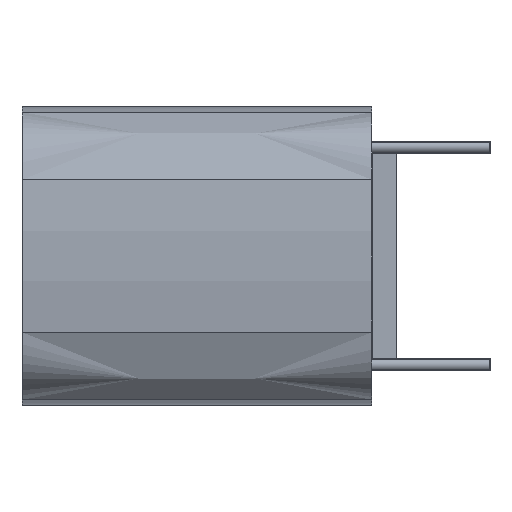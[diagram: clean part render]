
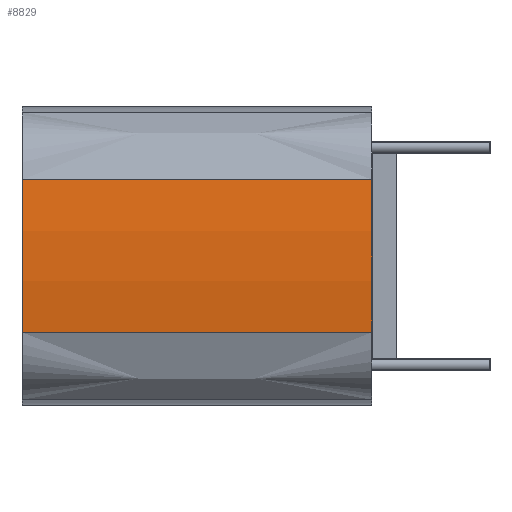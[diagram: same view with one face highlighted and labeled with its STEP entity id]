
A CAD part, left-side view. The second image highlights one B-rep face of the part: STEP entity #8829.
In plain terms, the highlighted cylindrical face has radius 853 mm (diameter 1706 mm), a partial arc.
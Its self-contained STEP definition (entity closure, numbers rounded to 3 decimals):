
#179 = ORIENTED_EDGE ( 'NONE', *, *, #9617, .T. ) ;
#800 = VERTEX_POINT ( 'NONE', #5337 ) ;
#1334 = CARTESIAN_POINT ( 'NONE',  ( -941.14, 0., 122.624 ) ) ;
#1947 = CARTESIAN_POINT ( 'NONE',  ( -941.14, 0., -122.624 ) ) ;
#2162 = B_SPLINE_CURVE_WITH_KNOTS ( 'NONE', 3,
 ( #1334, #5320, #5387, #2385 ),
 .UNSPECIFIED., .F., .F.,
 ( 4, 4 ),
 ( 0., 1. ),
 .UNSPECIFIED. ) ;
#2385 = CARTESIAN_POINT ( 'NONE',  ( -941.14, 563.5, 122.624 ) ) ;
#2894 = VERTEX_POINT ( 'NONE', #8298 ) ;
#3207 = CARTESIAN_POINT ( 'NONE',  ( -941.14, 563.5, -122.624 ) ) ;
#3660 = VERTEX_POINT ( 'NONE', #7500 ) ;
#4008 = CARTESIAN_POINT ( 'NONE',  ( -941.14, 187.833, -122.624 ) ) ;
#4671 = DIRECTION ( 'NONE',  ( 0., 0., -1. ) ) ;
#4755 = AXIS2_PLACEMENT_3D ( 'NONE', #10699, #7521, #5593 ) ;
#4859 = CYLINDRICAL_SURFACE ( 'NONE', #13129, 853. ) ;
#5320 = CARTESIAN_POINT ( 'NONE',  ( -941.14, 187.833, 122.624 ) ) ;
#5337 = CARTESIAN_POINT ( 'NONE',  ( -941.14, 563.5, -122.624 ) ) ;
#5387 = CARTESIAN_POINT ( 'NONE',  ( -941.14, 375.667, 122.624 ) ) ;
#5505 = AXIS2_PLACEMENT_3D ( 'NONE', #6210, #7278, #10065 ) ;
#5593 = DIRECTION ( 'NONE',  ( 0., 0., -1. ) ) ;
#5607 = FACE_OUTER_BOUND ( 'NONE', #8724, .T. ) ;
#5668 = CARTESIAN_POINT ( 'NONE',  ( -97., 563.5, 0. ) ) ;
#6210 = CARTESIAN_POINT ( 'NONE',  ( -97., 563.5, 0. ) ) ;
#6759 = B_SPLINE_CURVE_WITH_KNOTS ( 'NONE', 3,
 ( #3207, #12313, #4008, #1947 ),
 .UNSPECIFIED., .F., .F.,
 ( 4, 4 ),
 ( 0., 1. ),
 .UNSPECIFIED. ) ;
#6788 = EDGE_CURVE ( 'NONE', #3660, #2894, #11741, .T. ) ;
#6881 = CARTESIAN_POINT ( 'NONE',  ( -941.14, 563.5, 122.624 ) ) ;
#6889 = ORIENTED_EDGE ( 'NONE', *, *, #6788, .F. ) ;
#7278 = DIRECTION ( 'NONE',  ( 0., -1., 0. ) ) ;
#7500 = CARTESIAN_POINT ( 'NONE',  ( -941.14, 0., 122.624 ) ) ;
#7521 = DIRECTION ( 'NONE',  ( 0., -1., 0. ) ) ;
#8298 = CARTESIAN_POINT ( 'NONE',  ( -941.14, 0., -122.624 ) ) ;
#8724 = EDGE_LOOP ( 'NONE', ( #6889, #11425, #11218, #179 ) ) ;
#8829 = ADVANCED_FACE ( 'NONE', ( #5607 ), #4859, .T. ) ;
#9006 = EDGE_CURVE ( 'NONE', #3660, #9402, #2162, .T. ) ;
#9402 = VERTEX_POINT ( 'NONE', #6881 ) ;
#9617 = EDGE_CURVE ( 'NONE', #800, #2894, #6759, .T. ) ;
#9644 = EDGE_CURVE ( 'NONE', #9402, #800, #9761, .T. ) ;
#9656 = DIRECTION ( 'NONE',  ( 0., -1., 0. ) ) ;
#9761 = CIRCLE ( 'NONE', #5505, 853. ) ;
#10065 = DIRECTION ( 'NONE',  ( 0., 0., -1. ) ) ;
#10699 = CARTESIAN_POINT ( 'NONE',  ( -97., 0., 0. ) ) ;
#11218 = ORIENTED_EDGE ( 'NONE', *, *, #9644, .T. ) ;
#11425 = ORIENTED_EDGE ( 'NONE', *, *, #9006, .T. ) ;
#11741 = CIRCLE ( 'NONE', #4755, 853. ) ;
#12313 = CARTESIAN_POINT ( 'NONE',  ( -941.14, 375.667, -122.624 ) ) ;
#13129 = AXIS2_PLACEMENT_3D ( 'NONE', #5668, #9656, #4671 ) ;
